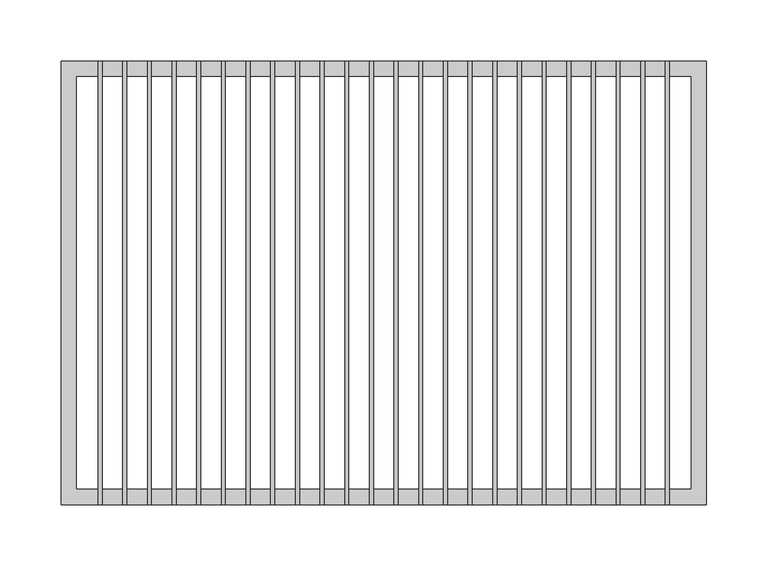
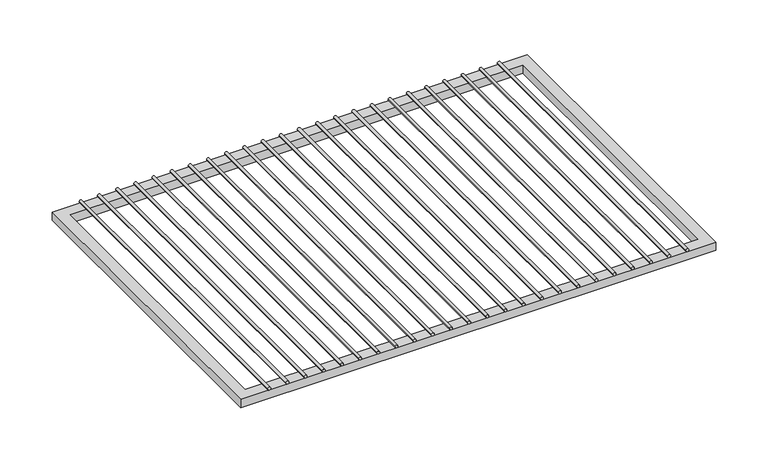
"""IFC4 building model written with IfcOpenShell, lengths in millimetres: furniture geometry, HermanMiller_CoStruc_CO252_CWireShelf : 14D x 20W."""

from ifc_helpers import new_model, si_unit, point, frame, frame_2d, origin, place, context, project, spatial, polyline, circle_curve, trimmed, segment, composite_curve, outline, extrude, source, transform, mapped, element, save


def furniture_ac1c1512(model_context):
    return source(origin(), model_context, "Body", "SweptSolid", [
        extrude(outline(composite_curve([segment(trimmed(circle_curve(frame_2d((1604.9625, -211.6206522)), 1.5875), [point((1604.9625, -213.2081522))], [point((1604.9625, -210.0331522))], False, "CARTESIAN"), True, "CONTINUOUS"), segment(trimmed(circle_curve(frame_2d((1604.9625, -211.6206522)), 1.5875), [point((1604.9625, -210.0331522))], [point((1604.9625, -213.2081522))], False, "CARTESIAN"), True, "CONTINUOUS")], self_intersect=False)), frame((0.0, -180.975, 0.0), z_axis=(0.0, 1.0, 0.0), x_axis=(0.0, 0.0, 1.0)), (0.0, 0.0, 1.0), 361.95),
        extrude(outline(composite_curve([segment(trimmed(circle_curve(frame_2d((1604.9625, -191.4663043)), 1.5875), [point((1604.9625, -193.0538043))], [point((1604.9625, -189.8788043))], False, "CARTESIAN"), True, "CONTINUOUS"), segment(trimmed(circle_curve(frame_2d((1604.9625, -191.4663043)), 1.5875), [point((1604.9625, -189.8788043))], [point((1604.9625, -193.0538043))], False, "CARTESIAN"), True, "CONTINUOUS")], self_intersect=False)), frame((0.0, -180.975, 0.0), z_axis=(0.0, 1.0, 0.0), x_axis=(0.0, 0.0, 1.0)), (0.0, 0.0, 1.0), 361.95),
        extrude(outline(composite_curve([segment(trimmed(circle_curve(frame_2d((1604.9625, -171.3119565)), 1.5875), [point((1604.9625, -172.8994565))], [point((1604.9625, -169.7244565))], False, "CARTESIAN"), True, "CONTINUOUS"), segment(trimmed(circle_curve(frame_2d((1604.9625, -171.3119565)), 1.5875), [point((1604.9625, -169.7244565))], [point((1604.9625, -172.8994565))], False, "CARTESIAN"), True, "CONTINUOUS")], self_intersect=False)), frame((0.0, -180.975, 0.0), z_axis=(0.0, 1.0, 0.0), x_axis=(0.0, 0.0, 1.0)), (0.0, 0.0, 1.0), 361.95),
        extrude(outline(composite_curve([segment(trimmed(circle_curve(frame_2d((1604.9625, -151.1576087)), 1.5875), [point((1604.9625, -152.7451087))], [point((1604.9625, -149.5701087))], False, "CARTESIAN"), True, "CONTINUOUS"), segment(trimmed(circle_curve(frame_2d((1604.9625, -151.1576087)), 1.5875), [point((1604.9625, -149.5701087))], [point((1604.9625, -152.7451087))], False, "CARTESIAN"), True, "CONTINUOUS")], self_intersect=False)), frame((0.0, -180.975, 0.0), z_axis=(0.0, 1.0, 0.0), x_axis=(0.0, 0.0, 1.0)), (0.0, 0.0, 1.0), 361.95),
        extrude(outline(composite_curve([segment(trimmed(circle_curve(frame_2d((1604.9625, -131.0032609)), 1.5875), [point((1604.9625, -132.5907609))], [point((1604.9625, -129.4157609))], False, "CARTESIAN"), True, "CONTINUOUS"), segment(trimmed(circle_curve(frame_2d((1604.9625, -131.0032609)), 1.5875), [point((1604.9625, -129.4157609))], [point((1604.9625, -132.5907609))], False, "CARTESIAN"), True, "CONTINUOUS")], self_intersect=False)), frame((0.0, -180.975, 0.0), z_axis=(0.0, 1.0, 0.0), x_axis=(0.0, 0.0, 1.0)), (0.0, 0.0, 1.0), 361.95),
        extrude(outline(composite_curve([segment(trimmed(circle_curve(frame_2d((1604.9625, -110.848913)), 1.5875), [point((1604.9625, -112.436413))], [point((1604.9625, -109.261413))], False, "CARTESIAN"), True, "CONTINUOUS"), segment(trimmed(circle_curve(frame_2d((1604.9625, -110.848913)), 1.5875), [point((1604.9625, -109.261413))], [point((1604.9625, -112.436413))], False, "CARTESIAN"), True, "CONTINUOUS")], self_intersect=False)), frame((0.0, -180.975, 0.0), z_axis=(0.0, 1.0, 0.0), x_axis=(0.0, 0.0, 1.0)), (0.0, 0.0, 1.0), 361.95),
        extrude(outline(composite_curve([segment(trimmed(circle_curve(frame_2d((1604.9625, -90.6945652)), 1.5875), [point((1604.9625, -92.2820652))], [point((1604.9625, -89.1070652))], False, "CARTESIAN"), True, "CONTINUOUS"), segment(trimmed(circle_curve(frame_2d((1604.9625, -90.6945652)), 1.5875), [point((1604.9625, -89.1070652))], [point((1604.9625, -92.2820652))], False, "CARTESIAN"), True, "CONTINUOUS")], self_intersect=False)), frame((0.0, -180.975, 0.0), z_axis=(0.0, 1.0, 0.0), x_axis=(0.0, 0.0, 1.0)), (0.0, 0.0, 1.0), 361.95),
        extrude(outline(composite_curve([segment(trimmed(circle_curve(frame_2d((1604.9625, -70.5402174)), 1.5875), [point((1604.9625, -72.1277174))], [point((1604.9625, -68.9527174))], False, "CARTESIAN"), True, "CONTINUOUS"), segment(trimmed(circle_curve(frame_2d((1604.9625, -70.5402174)), 1.5875), [point((1604.9625, -68.9527174))], [point((1604.9625, -72.1277174))], False, "CARTESIAN"), True, "CONTINUOUS")], self_intersect=False)), frame((0.0, -180.975, 0.0), z_axis=(0.0, 1.0, 0.0), x_axis=(0.0, 0.0, 1.0)), (0.0, 0.0, 1.0), 361.95),
        extrude(outline(composite_curve([segment(trimmed(circle_curve(frame_2d((1604.9625, -50.3858696)), 1.5875), [point((1604.9625, -51.9733696))], [point((1604.9625, -48.7983696))], False, "CARTESIAN"), True, "CONTINUOUS"), segment(trimmed(circle_curve(frame_2d((1604.9625, -50.3858696)), 1.5875), [point((1604.9625, -48.7983696))], [point((1604.9625, -51.9733696))], False, "CARTESIAN"), True, "CONTINUOUS")], self_intersect=False)), frame((0.0, -180.975, 0.0), z_axis=(0.0, 1.0, 0.0), x_axis=(0.0, 0.0, 1.0)), (0.0, 0.0, 1.0), 361.95),
        extrude(outline(composite_curve([segment(trimmed(circle_curve(frame_2d((1604.9625, -30.2315217)), 1.5875), [point((1604.9625, -31.8190217))], [point((1604.9625, -28.6440217))], False, "CARTESIAN"), True, "CONTINUOUS"), segment(trimmed(circle_curve(frame_2d((1604.9625, -30.2315217)), 1.5875), [point((1604.9625, -28.6440217))], [point((1604.9625, -31.8190217))], False, "CARTESIAN"), True, "CONTINUOUS")], self_intersect=False)), frame((0.0, -180.975, 0.0), z_axis=(0.0, 1.0, 0.0), x_axis=(0.0, 0.0, 1.0)), (0.0, 0.0, 1.0), 361.95),
        extrude(outline(composite_curve([segment(trimmed(circle_curve(frame_2d((1604.9625, -10.0771739)), 1.5875), [point((1604.9625, -11.6646739))], [point((1604.9625, -8.4896739))], False, "CARTESIAN"), True, "CONTINUOUS"), segment(trimmed(circle_curve(frame_2d((1604.9625, -10.0771739)), 1.5875), [point((1604.9625, -8.4896739))], [point((1604.9625, -11.6646739))], False, "CARTESIAN"), True, "CONTINUOUS")], self_intersect=False)), frame((0.0, -180.975, 0.0), z_axis=(0.0, 1.0, 0.0), x_axis=(0.0, 0.0, 1.0)), (0.0, 0.0, 1.0), 361.95),
        extrude(outline(composite_curve([segment(trimmed(circle_curve(frame_2d((1604.9625, 10.0771739)), 1.5875), [point((1604.9625, 8.4896739))], [point((1604.9625, 11.6646739))], False, "CARTESIAN"), True, "CONTINUOUS"), segment(trimmed(circle_curve(frame_2d((1604.9625, 10.0771739)), 1.5875), [point((1604.9625, 11.6646739))], [point((1604.9625, 8.4896739))], False, "CARTESIAN"), True, "CONTINUOUS")], self_intersect=False)), frame((0.0, -180.975, 0.0), z_axis=(0.0, 1.0, 0.0), x_axis=(0.0, 0.0, 1.0)), (0.0, 0.0, 1.0), 361.95),
        extrude(outline(composite_curve([segment(trimmed(circle_curve(frame_2d((1604.9625, 30.2315217)), 1.5875), [point((1604.9625, 28.6440217))], [point((1604.9625, 31.8190217))], False, "CARTESIAN"), True, "CONTINUOUS"), segment(trimmed(circle_curve(frame_2d((1604.9625, 30.2315217)), 1.5875), [point((1604.9625, 31.8190217))], [point((1604.9625, 28.6440217))], False, "CARTESIAN"), True, "CONTINUOUS")], self_intersect=False)), frame((0.0, -180.975, 0.0), z_axis=(0.0, 1.0, 0.0), x_axis=(0.0, 0.0, 1.0)), (0.0, 0.0, 1.0), 361.95),
        extrude(outline(composite_curve([segment(trimmed(circle_curve(frame_2d((1604.9625, 50.3858696)), 1.5875), [point((1604.9625, 48.7983696))], [point((1604.9625, 51.9733696))], False, "CARTESIAN"), True, "CONTINUOUS"), segment(trimmed(circle_curve(frame_2d((1604.9625, 50.3858696)), 1.5875), [point((1604.9625, 51.9733696))], [point((1604.9625, 48.7983696))], False, "CARTESIAN"), True, "CONTINUOUS")], self_intersect=False)), frame((0.0, -180.975, 0.0), z_axis=(0.0, 1.0, 0.0), x_axis=(0.0, 0.0, 1.0)), (0.0, 0.0, 1.0), 361.95),
        extrude(outline(composite_curve([segment(trimmed(circle_curve(frame_2d((1604.9625, 70.5402174)), 1.5875), [point((1604.9625, 68.9527174))], [point((1604.9625, 72.1277174))], False, "CARTESIAN"), True, "CONTINUOUS"), segment(trimmed(circle_curve(frame_2d((1604.9625, 70.5402174)), 1.5875), [point((1604.9625, 72.1277174))], [point((1604.9625, 68.9527174))], False, "CARTESIAN"), True, "CONTINUOUS")], self_intersect=False)), frame((0.0, -180.975, 0.0), z_axis=(0.0, 1.0, 0.0), x_axis=(0.0, 0.0, 1.0)), (0.0, 0.0, 1.0), 361.95),
        extrude(outline(composite_curve([segment(trimmed(circle_curve(frame_2d((1604.9625, 90.6945652)), 1.5875), [point((1604.9625, 89.1070652))], [point((1604.9625, 92.2820652))], False, "CARTESIAN"), True, "CONTINUOUS"), segment(trimmed(circle_curve(frame_2d((1604.9625, 90.6945652)), 1.5875), [point((1604.9625, 92.2820652))], [point((1604.9625, 89.1070652))], False, "CARTESIAN"), True, "CONTINUOUS")], self_intersect=False)), frame((0.0, -180.975, 0.0), z_axis=(0.0, 1.0, 0.0), x_axis=(0.0, 0.0, 1.0)), (0.0, 0.0, 1.0), 361.95),
        extrude(outline(composite_curve([segment(trimmed(circle_curve(frame_2d((1604.9625, 110.848913)), 1.5875), [point((1604.9625, 109.261413))], [point((1604.9625, 112.436413))], False, "CARTESIAN"), True, "CONTINUOUS"), segment(trimmed(circle_curve(frame_2d((1604.9625, 110.848913)), 1.5875), [point((1604.9625, 112.436413))], [point((1604.9625, 109.261413))], False, "CARTESIAN"), True, "CONTINUOUS")], self_intersect=False)), frame((0.0, -180.975, 0.0), z_axis=(0.0, 1.0, 0.0), x_axis=(0.0, 0.0, 1.0)), (0.0, 0.0, 1.0), 361.95),
        extrude(outline(composite_curve([segment(trimmed(circle_curve(frame_2d((1604.9625, 131.0032609)), 1.5875), [point((1604.9625, 129.4157609))], [point((1604.9625, 132.5907609))], False, "CARTESIAN"), True, "CONTINUOUS"), segment(trimmed(circle_curve(frame_2d((1604.9625, 131.0032609)), 1.5875), [point((1604.9625, 132.5907609))], [point((1604.9625, 129.4157609))], False, "CARTESIAN"), True, "CONTINUOUS")], self_intersect=False)), frame((0.0, -180.975, 0.0), z_axis=(0.0, 1.0, 0.0), x_axis=(0.0, 0.0, 1.0)), (0.0, 0.0, 1.0), 361.95),
        extrude(outline(composite_curve([segment(trimmed(circle_curve(frame_2d((1604.9625, 151.1576087)), 1.5875), [point((1604.9625, 149.5701087))], [point((1604.9625, 152.7451087))], False, "CARTESIAN"), True, "CONTINUOUS"), segment(trimmed(circle_curve(frame_2d((1604.9625, 151.1576087)), 1.5875), [point((1604.9625, 152.7451087))], [point((1604.9625, 149.5701087))], False, "CARTESIAN"), True, "CONTINUOUS")], self_intersect=False)), frame((0.0, -180.975, 0.0), z_axis=(0.0, 1.0, 0.0), x_axis=(0.0, 0.0, 1.0)), (0.0, 0.0, 1.0), 361.95),
        extrude(outline(composite_curve([segment(trimmed(circle_curve(frame_2d((1604.9625, 171.3119565)), 1.5875), [point((1604.9625, 169.7244565))], [point((1604.9625, 172.8994565))], False, "CARTESIAN"), True, "CONTINUOUS"), segment(trimmed(circle_curve(frame_2d((1604.9625, 171.3119565)), 1.5875), [point((1604.9625, 172.8994565))], [point((1604.9625, 169.7244565))], False, "CARTESIAN"), True, "CONTINUOUS")], self_intersect=False)), frame((0.0, -180.975, 0.0), z_axis=(0.0, 1.0, 0.0), x_axis=(0.0, 0.0, 1.0)), (0.0, 0.0, 1.0), 361.95),
        extrude(outline(composite_curve([segment(trimmed(circle_curve(frame_2d((1604.9625, 191.4663043)), 1.5875), [point((1604.9625, 189.8788043))], [point((1604.9625, 193.0538043))], False, "CARTESIAN"), True, "CONTINUOUS"), segment(trimmed(circle_curve(frame_2d((1604.9625, 191.4663043)), 1.5875), [point((1604.9625, 193.0538043))], [point((1604.9625, 189.8788043))], False, "CARTESIAN"), True, "CONTINUOUS")], self_intersect=False)), frame((0.0, -180.975, 0.0), z_axis=(0.0, 1.0, 0.0), x_axis=(0.0, 0.0, 1.0)), (0.0, 0.0, 1.0), 361.95),
        extrude(outline(composite_curve([segment(trimmed(circle_curve(frame_2d((1604.9625, 211.6206522)), 1.5875), [point((1604.9625, 210.0331522))], [point((1604.9625, 213.2081522))], False, "CARTESIAN"), True, "CONTINUOUS"), segment(trimmed(circle_curve(frame_2d((1604.9625, 211.6206522)), 1.5875), [point((1604.9625, 213.2081522))], [point((1604.9625, 210.0331522))], False, "CARTESIAN"), True, "CONTINUOUS")], self_intersect=False)), frame((0.0, -180.975, 0.0), z_axis=(0.0, 1.0, 0.0), x_axis=(0.0, 0.0, 1.0)), (0.0, 0.0, 1.0), 361.95),
        extrude(outline(composite_curve([segment(trimmed(circle_curve(frame_2d((1604.9625, -231.775)), 1.5875), [point((1604.9625, -233.3625))], [point((1604.9625, -230.1875))], False, "CARTESIAN"), True, "CONTINUOUS"), segment(trimmed(circle_curve(frame_2d((1604.9625, -231.775)), 1.5875), [point((1604.9625, -230.1875))], [point((1604.9625, -233.3625))], False, "CARTESIAN"), True, "CONTINUOUS")], self_intersect=False)), frame((0.0, -180.975, 0.0), z_axis=(0.0, 1.0, 0.0), x_axis=(0.0, 0.0, 1.0)), (0.0, 0.0, 1.0), 361.95),
        extrude(outline(composite_curve([segment(trimmed(circle_curve(frame_2d((1604.9625, 231.775)), 1.5875), [point((1604.9625, 230.1875))], [point((1604.9625, 233.3625))], False, "CARTESIAN"), True, "CONTINUOUS"), segment(trimmed(circle_curve(frame_2d((1604.9625, 231.775)), 1.5875), [point((1604.9625, 233.3625))], [point((1604.9625, 230.1875))], False, "CARTESIAN"), True, "CONTINUOUS")], self_intersect=False)), frame((0.0, -180.975, 0.0), z_axis=(0.0, 1.0, 0.0), x_axis=(0.0, 0.0, 1.0)), (0.0, 0.0, 1.0), 361.95),
        extrude(outline(polyline([(-263.525, -180.975), (-263.525, 180.975), (263.525, 180.975), (263.525, -180.975), (-263.525, -180.975)]), holes=[polyline([(-250.825, -168.275), (250.825, -168.275), (250.825, 168.275), (-250.825, 168.275), (-250.825, -168.275)])]), frame((0.0, 0.0, 1593.85), z_axis=(0.0, 0.0, 1.0), x_axis=(1.0, 0.0, 0.0)), (0.0, 0.0, 1.0), 9.525),
    ])


if __name__ == "__main__":
    model = new_model("IFC4")
    model_context = context("Model", 3, world=origin())
    ifc_project = project(units=[si_unit("LENGTHUNIT", "METRE", prefix="MILLI")], contexts=[model_context])
    site = spatial("IfcSite", under=ifc_project)
    building = spatial("IfcBuilding", under=site)
    placement = place(None, origin())
    furniture_shape = furniture_ac1c1512(model_context)
    element("IfcFurniture", 1, ObjectType="HermanMiller_CoStruc_CO252_CWireShelf : 14D x 20W", at=placement, inside=building, context=model_context, shape_type="MappedRepresentation", body=[
        mapped(furniture_shape, transform((0.0, 0.0, 0.0), x_axis=(1.0, 0.0, 0.0), y_axis=(0.0, 1.0, 0.0), z_axis=(0.0, 0.0, 1.0))),
    ])
    save(model, "model.ifc")
